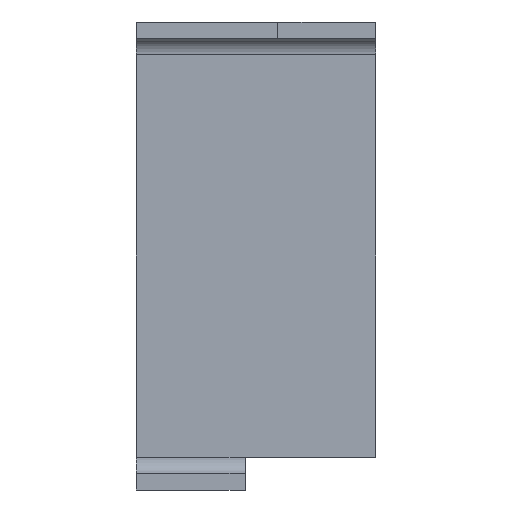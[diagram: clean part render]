
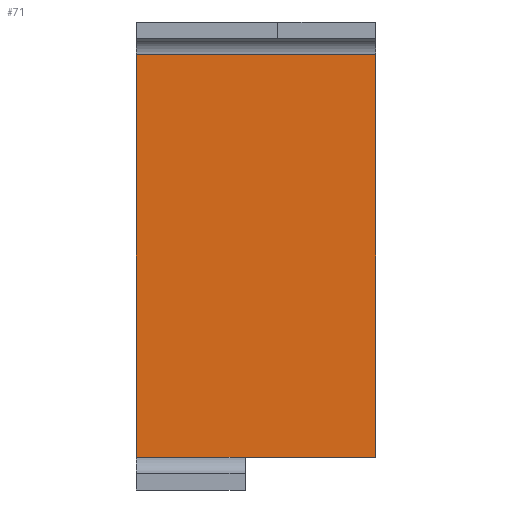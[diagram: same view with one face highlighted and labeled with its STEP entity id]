
A CAD part, front view. The second image highlights one B-rep face of the part: STEP entity #71.
In plain terms, the highlighted planar face has unit normal (0, -1, 0).
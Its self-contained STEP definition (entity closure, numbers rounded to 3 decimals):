
#51 = LINE ( 'NONE', #318, #593 ) ;
#67 = LINE ( 'NONE', #207, #555 ) ;
#71 = ADVANCED_FACE ( 'NONE', ( #214 ), #219, .F. ) ;
#86 = VERTEX_POINT ( 'NONE', #605 ) ;
#136 = CARTESIAN_POINT ( 'NONE',  ( 0., 38.5, -3. ) ) ;
#138 = ORIENTED_EDGE ( 'NONE', *, *, #655, .F. ) ;
#163 = DIRECTION ( 'NONE',  ( 1., 0., 0. ) ) ;
#164 = VECTOR ( 'NONE', #163, 1000. ) ;
#172 = ORIENTED_EDGE ( 'NONE', *, *, #636, .T. ) ;
#193 = EDGE_LOOP ( 'NONE', ( #632, #172, #253, #270, #138 ) ) ;
#203 = LINE ( 'NONE', #136, #242 ) ;
#204 = AXIS2_PLACEMENT_3D ( 'NONE', #656, #539, #328 ) ;
#207 = CARTESIAN_POINT ( 'NONE',  ( 5.963, 38.5, -40. ) ) ;
#209 = DIRECTION ( 'NONE',  ( 0., 0., 1. ) ) ;
#214 = FACE_OUTER_BOUND ( 'NONE', #193, .T. ) ;
#219 = PLANE ( 'NONE',  #204 ) ;
#233 = VERTEX_POINT ( 'NONE', #503 ) ;
#241 = EDGE_CURVE ( 'NONE', #496, #233, #203, .T. ) ;
#242 = VECTOR ( 'NONE', #447, 1000. ) ;
#251 = LINE ( 'NONE', #582, #663 ) ;
#253 = ORIENTED_EDGE ( 'NONE', *, *, #457, .T. ) ;
#258 = LINE ( 'NONE', #377, #164 ) ;
#270 = ORIENTED_EDGE ( 'NONE', *, *, #241, .T. ) ;
#318 = CARTESIAN_POINT ( 'NONE',  ( 0., 38.5, -43. ) ) ;
#325 = CARTESIAN_POINT ( 'NONE',  ( 22., 38.5, -3. ) ) ;
#328 = DIRECTION ( 'NONE',  ( 0., 0., 1. ) ) ;
#377 = CARTESIAN_POINT ( 'NONE',  ( 10., 38.5, -40. ) ) ;
#412 = CARTESIAN_POINT ( 'NONE',  ( 0., 38.5, -40. ) ) ;
#447 = DIRECTION ( 'NONE',  ( -1., 0., 0. ) ) ;
#457 = EDGE_CURVE ( 'NONE', #704, #496, #251, .T. ) ;
#496 = VERTEX_POINT ( 'NONE', #325 ) ;
#503 = CARTESIAN_POINT ( 'NONE',  ( 0., 38.5, -3. ) ) ;
#531 = DIRECTION ( 'NONE',  ( 0., 0., 1. ) ) ;
#539 = DIRECTION ( 'NONE',  ( 0., 1., 0. ) ) ;
#555 = VECTOR ( 'NONE', #587, 1000. ) ;
#574 = EDGE_CURVE ( 'NONE', #612, #86, #258, .T. ) ;
#579 = CARTESIAN_POINT ( 'NONE',  ( 22., 38.5, -40. ) ) ;
#582 = CARTESIAN_POINT ( 'NONE',  ( 22., 38.5, -43. ) ) ;
#587 = DIRECTION ( 'NONE',  ( 1., 0., 0. ) ) ;
#593 = VECTOR ( 'NONE', #209, 1000. ) ;
#605 = CARTESIAN_POINT ( 'NONE',  ( 10., 38.5, -40. ) ) ;
#612 = VERTEX_POINT ( 'NONE', #412 ) ;
#632 = ORIENTED_EDGE ( 'NONE', *, *, #574, .T. ) ;
#636 = EDGE_CURVE ( 'NONE', #86, #704, #67, .T. ) ;
#655 = EDGE_CURVE ( 'NONE', #612, #233, #51, .T. ) ;
#656 = CARTESIAN_POINT ( 'NONE',  ( 22., 38.5, -43. ) ) ;
#663 = VECTOR ( 'NONE', #531, 1000. ) ;
#704 = VERTEX_POINT ( 'NONE', #579 ) ;
